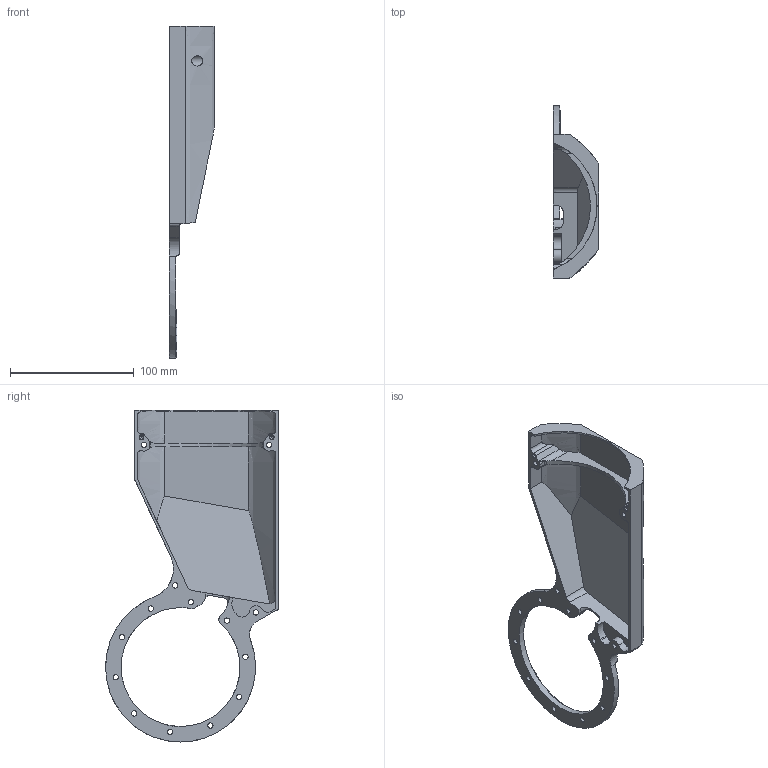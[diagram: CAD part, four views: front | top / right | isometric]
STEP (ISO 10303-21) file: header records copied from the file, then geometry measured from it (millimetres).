
FILE_DESCRIPTION((''),'2;1');
FILE_NAME('KD-D-302L_L_FEMUR_LOWER_IDLE_1','2025-07-12T15:56:37',('Administrator'),(''),'CREO PARAMETRIC BY PTC INC, 2022073','CREO PARAMETRIC BY PTC INC, 2022073','');
FILE_SCHEMA(('CONFIG_CONTROL_DESIGN'));
Length unit declared in the file: millimetre
Products named in the file (1): KD-D-302L_L_FEMUR_LOWER_IDLE_1
Bounding box: 36.5 x 139.5 x 268 mm (x, y, z)
Volume: 71134.2 mm3; surface area: 67551 mm2
Topology: 1 solids, 1 shells, 201 faces, 587 edges, 389 vertices
Faces by surface type: cylinder 103, plane 47, cone 36, extrusion 6, torus 5, bspline 4
Entity records: 7749 total; most frequent: CARTESIAN_POINT 2329, ORIENTED_EDGE 1166, DIRECTION 1104, EDGE_CURVE 583, AXIS2_PLACEMENT_3D 431, VERTEX_POINT 389, VECTOR 242, CIRCLE 240
